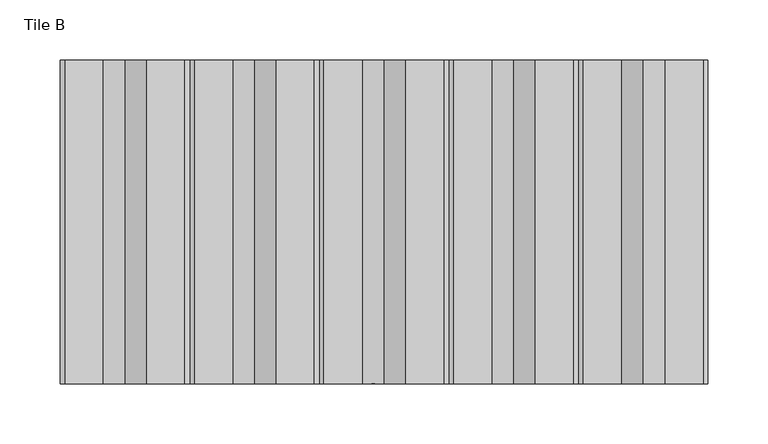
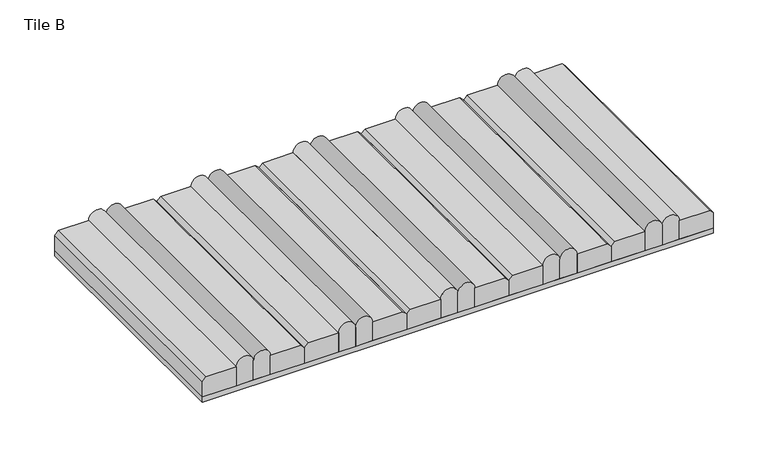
"""IFC4 building model written with IfcOpenShell, lengths in millimetres: proxy geometry, Spinneybeck_Søuld Fragments Manufacturing Drawing : Tile B."""

from ifc_helpers import new_model, si_unit, point, frame, frame_2d, origin, origin_with_axes, place, context, project, spatial, polyline, circle_curve, trimmed, segment, composite_curve, outline, extrude, source, transform, mapped, element, save


def tile_b_29a99269(model_context):
    return source(origin(), model_context, "Body", "SweptSolid", [
        extrude(outline(polyline([(23.0303228, -53.975), (27.0, -57.9446772), (27.0, -89.9583333), (6.0, -89.9583333), (6.0, -53.975), (23.0303228, -53.975)])), frame((0.0, -134.9375, 0.0), z_axis=(0.0, 1.0, 0.0), x_axis=(0.0, 0.0, 1.0)), (0.0, 0.0, 1.0), 269.875),
        extrude(outline(polyline([(23.0303228, -161.925), (27.0, -165.8946772), (27.0, -197.9083333), (6.0, -197.9083333), (6.0, -161.925), (23.0303228, -161.925)])), frame((0.0, -134.9375, 0.0), z_axis=(0.0, 1.0, 0.0), x_axis=(0.0, 0.0, 1.0)), (0.0, 0.0, 1.0), 269.875),
        extrude(outline(polyline([(27.0, -265.9053228), (23.0303228, -269.875), (6.0, -269.875), (6.0, -233.8916667), (27.0, -233.8916667), (27.0, -265.9053228)])), frame((0.0, -134.9375, 0.0), z_axis=(0.0, 1.0, 0.0), x_axis=(0.0, 0.0, 1.0)), (0.0, 0.0, 1.0), 269.875),
        extrude(outline(polyline([(23.0303228, 53.975), (27.0, 50.0053228), (27.0, 17.9916667), (6.0, 17.9916667), (6.0, 53.975), (23.0303228, 53.975)])), frame((0.0, -134.9375, 0.0), z_axis=(0.0, 1.0, 0.0), x_axis=(0.0, 0.0, 1.0)), (0.0, 0.0, 1.0), 269.875),
        extrude(outline(polyline([(27.0, 265.9053228), (27.0, 233.8916667), (6.0, 233.8916667), (6.0, 269.875), (23.0303228, 269.875), (27.0, 265.9053228)])), frame((0.0, -134.9375, 0.0), z_axis=(0.0, 1.0, 0.0), x_axis=(0.0, 0.0, 1.0)), (0.0, 0.0, 1.0), 269.875),
        extrude(outline(polyline([(27.0, 157.9553228), (27.0, 125.9416667), (6.0, 125.9416667), (6.0, 161.925), (23.0303228, 161.925), (27.0, 157.9553228)])), frame((0.0, -134.9375, 0.0), z_axis=(0.0, 1.0, 0.0), x_axis=(0.0, 0.0, 1.0)), (0.0, 0.0, 1.0), 269.875),
        extrude(outline(composite_curve([segment(trimmed(circle_curve(frame_2d((27.0, -206.9041667)), 8.9958333), [point((27.0, -197.9083333))], [point((27.0, -215.9))], False, "CARTESIAN"), True, "CONTINUOUS"), segment(polyline([(27.0, -215.9), (6.0, -215.9), (6.0, -197.9083333), (27.0, -197.9083333)]), True, "CONTINUOUS")], self_intersect=False)), frame((0.0, -134.9375, 0.0), z_axis=(0.0, 1.0, 0.0), x_axis=(0.0, 0.0, 1.0)), (0.0, 0.0, 1.0), 269.875),
        extrude(outline(composite_curve([segment(trimmed(circle_curve(frame_2d((27.0, -98.9541667)), 8.9958333), [point((27.0, -89.9583333))], [point((27.0, -107.95))], False, "CARTESIAN"), True, "CONTINUOUS"), segment(polyline([(27.0, -107.95), (6.0, -107.95), (6.0, -89.9583333), (27.0, -89.9583333)]), True, "CONTINUOUS")], self_intersect=False)), frame((0.0, -134.9375, 0.0), z_axis=(0.0, 1.0, 0.0), x_axis=(0.0, 0.0, 1.0)), (0.0, 0.0, 1.0), 269.875),
        extrude(outline(composite_curve([segment(polyline([(27.0, 107.95), (6.0, 107.95), (6.0, 125.9416667), (27.0, 125.9416667)]), True, "CONTINUOUS"), segment(trimmed(circle_curve(frame_2d((27.0, 116.9458333)), 8.9958333), [point((27.0, 125.9416667))], [point((27.0, 107.95))], False, "CARTESIAN"), True, "CONTINUOUS")], self_intersect=False)), frame((0.0, -134.9375, 0.0), z_axis=(0.0, 1.0, 0.0), x_axis=(0.0, 0.0, 1.0)), (0.0, 0.0, 1.0), 269.875),
        extrude(outline(composite_curve([segment(polyline([(27.0, 0.0), (6.0, 0.0), (6.0, 17.9916667), (27.0, 17.9916667)]), True, "CONTINUOUS"), segment(trimmed(circle_curve(frame_2d((27.0, 8.9958333)), 8.9958333), [point((27.0, 17.9916667))], [point((27.0, 0.0))], False, "CARTESIAN"), True, "CONTINUOUS")], self_intersect=False)), frame((0.0, -134.9375, 0.0), z_axis=(0.0, 1.0, 0.0), x_axis=(0.0, 0.0, 1.0)), (0.0, 0.0, 1.0), 269.875),
        extrude(outline(composite_curve([segment(polyline([(27.0, 197.9083333), (6.0, 197.9083333), (6.0, 215.9), (27.0, 215.9)]), True, "CONTINUOUS"), segment(trimmed(circle_curve(frame_2d((27.0, 206.9041667)), 8.9958333), [point((27.0, 215.9))], [point((27.0, 197.9083333))], False, "CARTESIAN"), True, "CONTINUOUS")], self_intersect=False)), frame((0.0, -134.9375, 0.0), z_axis=(0.0, 1.0, 0.0), x_axis=(0.0, 0.0, 1.0)), (0.0, 0.0, 1.0), 269.875),
        extrude(outline(polyline([(27.0, -157.9553228), (23.0303228, -161.925), (6.0, -161.925), (6.0, -125.9416667), (27.0, -125.9416667), (27.0, -157.9553228)])), frame((0.0, -134.9375, 0.0), z_axis=(0.0, 1.0, 0.0), x_axis=(0.0, 0.0, 1.0)), (0.0, 0.0, 1.0), 269.875),
        extrude(outline(polyline([(23.0303228, -53.975), (6.0, -53.975), (6.0, -17.9916667), (27.0, -17.9916667), (27.0, -50.0053228), (23.0303228, -53.975)])), frame((0.0, -134.9375, 0.0), z_axis=(0.0, 1.0, 0.0), x_axis=(0.0, 0.0, 1.0)), (0.0, 0.0, 1.0), 269.875),
        extrude(outline(polyline([(23.0303228, 161.925), (6.0, 161.925), (6.0, 197.9083333), (27.0, 197.9083333), (27.0, 165.8946772), (23.0303228, 161.925)])), frame((0.0, -134.9375, 0.0), z_axis=(0.0, 1.0, 0.0), x_axis=(0.0, 0.0, 1.0)), (0.0, 0.0, 1.0), 269.875),
        extrude(outline(polyline([(23.0303228, 53.975), (6.0, 53.975), (6.0, 89.9583333), (27.0, 89.9583333), (27.0, 57.9446772), (23.0303228, 53.975)])), frame((0.0, -134.9375, 0.0), z_axis=(0.0, 1.0, 0.0), x_axis=(0.0, 0.0, 1.0)), (0.0, 0.0, 1.0), 269.875),
        extrude(outline(composite_curve([segment(polyline([(6.0, 215.9), (6.0, 233.8916667), (27.0, 233.8916667)]), True, "CONTINUOUS"), segment(trimmed(circle_curve(frame_2d((27.0, 224.8958333)), 8.9958333), [point((27.0, 233.8916667))], [point((27.0, 215.9))], False, "CARTESIAN"), True, "CONTINUOUS"), segment(polyline([(27.0, 215.9), (6.0, 215.9)]), True, "CONTINUOUS")], self_intersect=False)), frame((0.0, -134.9375, 0.0), z_axis=(0.0, 1.0, 0.0), x_axis=(0.0, 0.0, 1.0)), (0.0, 0.0, 1.0), 269.875),
        extrude(outline(composite_curve([segment(polyline([(6.0, 89.9583333), (6.0, 107.95), (27.0, 107.95)]), True, "CONTINUOUS"), segment(trimmed(circle_curve(frame_2d((27.0, 98.9541667)), 8.9958333), [point((27.0, 107.95))], [point((27.0, 89.9583333))], False, "CARTESIAN"), True, "CONTINUOUS"), segment(polyline([(27.0, 89.9583333), (6.0, 89.9583333)]), True, "CONTINUOUS")], self_intersect=False)), frame((0.0, -134.9375, 0.0), z_axis=(0.0, 1.0, 0.0), x_axis=(0.0, 0.0, 1.0)), (0.0, 0.0, 1.0), 269.875),
        extrude(outline(composite_curve([segment(polyline([(6.0, -215.9), (27.0, -215.9)]), True, "CONTINUOUS"), segment(trimmed(circle_curve(frame_2d((27.0, -224.8958333)), 8.9958333), [point((27.0, -215.9))], [point((27.0, -233.8916667))], False, "CARTESIAN"), True, "CONTINUOUS"), segment(polyline([(27.0, -233.8916667), (6.0, -233.8916667), (6.0, -215.9)]), True, "CONTINUOUS")], self_intersect=False)), frame((0.0, -134.9375, 0.0), z_axis=(0.0, 1.0, 0.0), x_axis=(0.0, 0.0, 1.0)), (0.0, 0.0, 1.0), 269.875),
        extrude(outline(composite_curve([segment(polyline([(6.0, -107.95), (27.0, -107.95)]), True, "CONTINUOUS"), segment(trimmed(circle_curve(frame_2d((27.0, -116.9458333)), 8.9958333), [point((27.0, -107.95))], [point((27.0, -125.9416667))], False, "CARTESIAN"), True, "CONTINUOUS"), segment(polyline([(27.0, -125.9416667), (6.0, -125.9416667), (6.0, -107.95)]), True, "CONTINUOUS")], self_intersect=False)), frame((0.0, -134.9375, 0.0), z_axis=(0.0, 1.0, 0.0), x_axis=(0.0, 0.0, 1.0)), (0.0, 0.0, 1.0), 269.875),
        extrude(outline(composite_curve([segment(polyline([(6.0, 0.0), (27.0, 0.0)]), True, "CONTINUOUS"), segment(trimmed(circle_curve(frame_2d((27.0, -8.9958333)), 8.9958333), [point((27.0, 0.0))], [point((27.0, -17.9916667))], False, "CARTESIAN"), True, "CONTINUOUS"), segment(polyline([(27.0, -17.9916667), (6.0, -17.9916667), (6.0, 0.0)]), True, "CONTINUOUS")], self_intersect=False)), frame((0.0, -134.9375, 0.0), z_axis=(0.0, 1.0, 0.0), x_axis=(0.0, 0.0, 1.0)), (0.0, 0.0, 1.0), 269.875),
        extrude(outline(polyline([(269.875, 134.9375), (269.875, -134.9375), (-269.875, -134.9375), (-269.875, 134.9375), (269.875, 134.9375)])), origin_with_axes(), (0.0, 0.0, 1.0), 6.0),
    ])


if __name__ == "__main__":
    model = new_model("IFC4")
    model_context = context("Model", 3, world=origin())
    ifc_project = project(units=[si_unit("LENGTHUNIT", "METRE", prefix="MILLI")], contexts=[model_context])
    site = spatial("IfcSite", under=ifc_project)
    building = spatial("IfcBuilding", under=site)
    placement = place(None, origin())
    tile_b_shape = tile_b_29a99269(model_context)
    element("IfcBuildingElementProxy", 1, Name="Spinneybeck_Søuld Fragments Manufacturing Drawing : Tile B", ObjectType="Spinneybeck_Søuld Fragments Manufacturing Drawing : Tile B", at=placement, inside=building, context=model_context, shape_type="MappedRepresentation", body=[
        mapped(tile_b_shape, transform((0.0, 0.0, 0.0), x_axis=(1.0, 0.0, 0.0), y_axis=(0.0, 1.0, 0.0), z_axis=(0.0, 0.0, 1.0))),
    ])
    save(model, "model.ifc")
